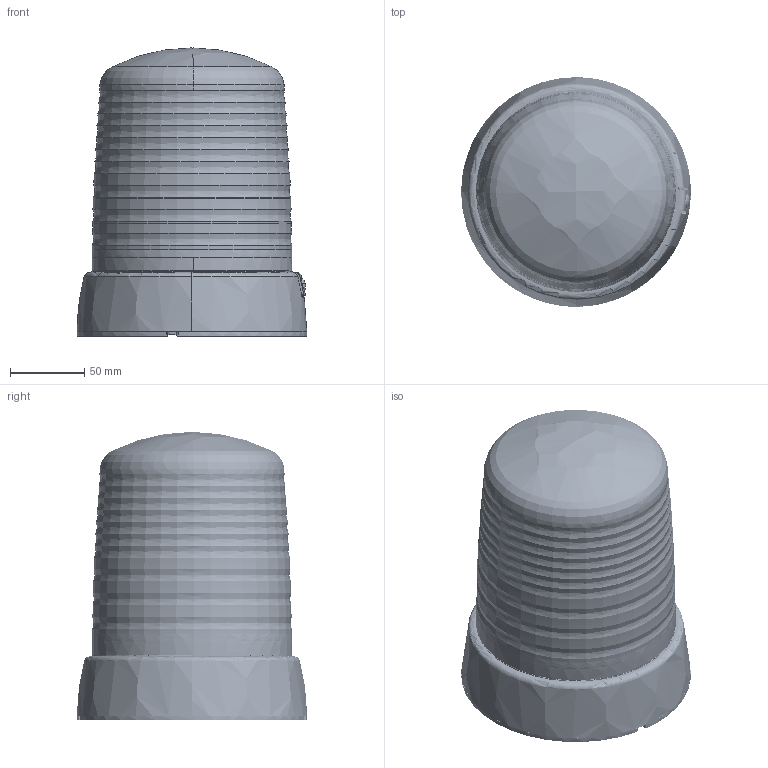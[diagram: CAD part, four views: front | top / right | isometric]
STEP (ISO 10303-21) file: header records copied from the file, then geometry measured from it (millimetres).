
FILE_DESCRIPTION(('CATIA V5 STEP Exchange','CAx-IF Rec.Pracs.--- Model Styling and Organization---1.5--- 2016-08-15','CAx-IF Rec.Pracs.---Supplemental Geometry---1.0---2011-11-01','CAx-IF Rec.Pracs.--- Composite Materials ---1.1---2010-07-15'),'2;1');
FILE_NAME('E:\tmp\ddx\2011221\HELLA_3D_data_KL_7000_fix_2RL-008-061-10.stp','2022-01-18T07:34:46+00:00',('none'),('none'),'CATIA Version 5-6 Release 2020 SP3 HF9','CATIA V5 STEP AP214 Edition 3 v2','none');
FILE_SCHEMA(('AUTOMOTIVE_DESIGN { 1 0 10303 214 3 1 1 1 }'));
Length unit declared in the file: millimetre
Products named in the file (1): 10000609074_D10_001
Bounding box: 155 x 155 x 194.52 mm (x, y, z)
Volume: 416813.1 mm3; surface area: 370212.2 mm2
Topology: 55 solids, 64 shells, 5006 faces, 13059 edges, 8148 vertices
Faces by surface type: plane 2013, cylinder 1394, bspline 720, torus 504, cone 244, sphere 107, revolution 24
Entity records: 224281 total; most frequent: CARTESIAN_POINT 113915, ORIENTED_EDGE 25932, DIRECTION 17289, EDGE_CURVE 12985, VERTEX_POINT 8148, AXIS2_PLACEMENT_3D 7185, VECTOR 5850, LINE 5850
